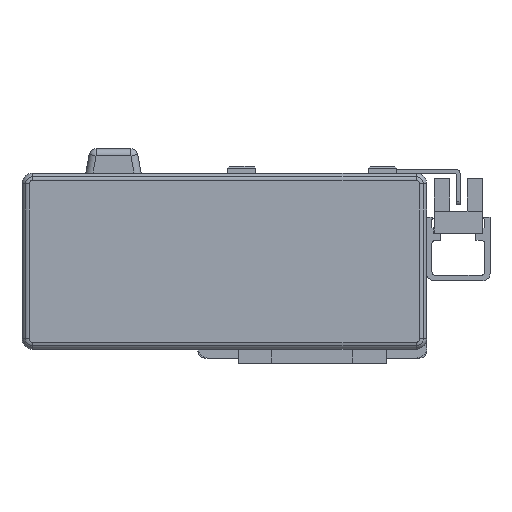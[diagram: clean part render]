
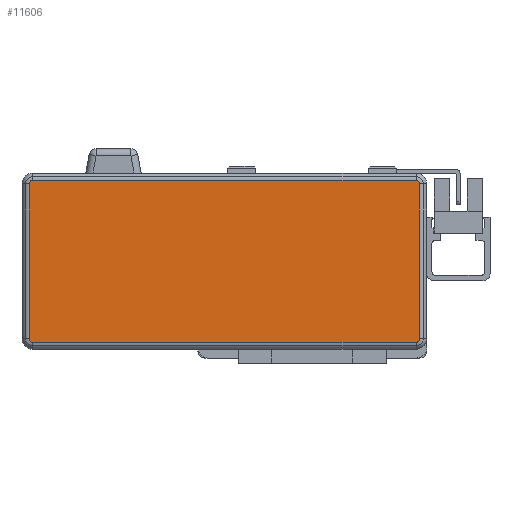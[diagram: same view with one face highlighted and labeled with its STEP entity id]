
A CAD part, left-side view. The second image highlights one B-rep face of the part: STEP entity #11606.
In plain terms, the highlighted planar face has unit normal (-1, 0, 0) as drawn and (0, 0, 1) by its records, which use the part's own axes.
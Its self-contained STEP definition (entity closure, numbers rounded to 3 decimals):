
#807 = CARTESIAN_POINT ( 'NONE',  ( 55.5, -22., 40. ) ) ;
#1894 = ORIENTED_EDGE ( 'NONE', *, *, #25583, .T. ) ;
#1999 = CARTESIAN_POINT ( 'NONE',  ( 0., 23., 40. ) ) ;
#2212 = DIRECTION ( 'NONE',  ( 0., -1., 0. ) ) ;
#5002 = CARTESIAN_POINT ( 'NONE',  ( -55.5, 22., 40. ) ) ;
#6322 = CARTESIAN_POINT ( 'NONE',  ( 54.5, 23., 40. ) ) ;
#6672 = DIRECTION ( 'NONE',  ( 0., 1., 0. ) ) ;
#6716 = FACE_OUTER_BOUND ( 'NONE', #20913, .T. ) ;
#6749 = DIRECTION ( 'NONE',  ( -1., 0., 0. ) ) ;
#7407 = AXIS2_PLACEMENT_3D ( 'NONE', #9083, #20179, #6749 ) ;
#8532 = CARTESIAN_POINT ( 'NONE',  ( 54.5, -23., 40. ) ) ;
#8604 = CARTESIAN_POINT ( 'NONE',  ( 54.5, -22., 40. ) ) ;
#9083 = CARTESIAN_POINT ( 'NONE',  ( 0., 0., 40. ) ) ;
#10792 = ORIENTED_EDGE ( 'NONE', *, *, #25586, .T. ) ;
#10893 = CARTESIAN_POINT ( 'NONE',  ( 0., -23., 40. ) ) ;
#11010 = DIRECTION ( 'NONE',  ( -1., 0., 0. ) ) ;
#11324 = CIRCLE ( 'NONE', #13431, 1. ) ;
#11514 = ORIENTED_EDGE ( 'NONE', *, *, #25727, .T. ) ;
#11606 = ADVANCED_FACE ( 'NONE', ( #6716 ), #18244, .F. ) ;
#11706 = VECTOR ( 'NONE', #2212, 1000. ) ;
#11963 = CARTESIAN_POINT ( 'NONE',  ( -54.5, 22., 40. ) ) ;
#12062 = CARTESIAN_POINT ( 'NONE',  ( -54.5, -22., 40. ) ) ;
#12102 = CIRCLE ( 'NONE', #13466, 1. ) ;
#12130 = LINE ( 'NONE', #24324, #11706 ) ;
#12911 = AXIS2_PLACEMENT_3D ( 'NONE', #8604, #23576, #11010 ) ;
#13183 = VECTOR ( 'NONE', #20290, 1000. ) ;
#13208 = LINE ( 'NONE', #1999, #13183 ) ;
#13431 = AXIS2_PLACEMENT_3D ( 'NONE', #12062, #26289, #14416 ) ;
#13466 = AXIS2_PLACEMENT_3D ( 'NONE', #11963, #26200, #14315 ) ;
#13505 = AXIS2_PLACEMENT_3D ( 'NONE', #25948, #13994, #27918 ) ;
#13660 = CARTESIAN_POINT ( 'NONE',  ( -54.5, 23., 40. ) ) ;
#13889 = CIRCLE ( 'NONE', #13505, 1. ) ;
#13927 = VECTOR ( 'NONE', #6672, 1000. ) ;
#13994 = DIRECTION ( 'NONE',  ( 0., 0., 1. ) ) ;
#14315 = DIRECTION ( 'NONE',  ( -1., 0., 0. ) ) ;
#14416 = DIRECTION ( 'NONE',  ( -1., 0., 0. ) ) ;
#14620 = LINE ( 'NONE', #22107, #13927 ) ;
#15642 = DIRECTION ( 'NONE',  ( 1., 0., 0. ) ) ;
#17055 = VECTOR ( 'NONE', #15642, 1000. ) ;
#17366 = LINE ( 'NONE', #10893, #17055 ) ;
#17417 = CIRCLE ( 'NONE', #12911, 1. ) ;
#18244 = PLANE ( 'NONE',  #7407 ) ;
#20179 = DIRECTION ( 'NONE',  ( 0., 0., -1. ) ) ;
#20290 = DIRECTION ( 'NONE',  ( -1., 0., 0. ) ) ;
#20913 = EDGE_LOOP ( 'NONE', ( #1894, #10792, #26329, #26236, #11514, #23560, #22022, #28218 ) ) ;
#20996 = VERTEX_POINT ( 'NONE', #807 ) ;
#22022 = ORIENTED_EDGE ( 'NONE', *, *, #25779, .T. ) ;
#22107 = CARTESIAN_POINT ( 'NONE',  ( 55.5, 0., 40. ) ) ;
#22221 = VERTEX_POINT ( 'NONE', #6322 ) ;
#23560 = ORIENTED_EDGE ( 'NONE', *, *, #25773, .T. ) ;
#23576 = DIRECTION ( 'NONE',  ( 0., 0., 1. ) ) ;
#23849 = VERTEX_POINT ( 'NONE', #13660 ) ;
#24324 = CARTESIAN_POINT ( 'NONE',  ( -55.5, 0., 40. ) ) ;
#24737 = VERTEX_POINT ( 'NONE', #5002 ) ;
#25583 = EDGE_CURVE ( 'NONE', #27586, #26730, #17366, .T. ) ;
#25586 = EDGE_CURVE ( 'NONE', #26730, #20996, #17417, .T. ) ;
#25701 = EDGE_CURVE ( 'NONE', #20996, #26872, #14620, .T. ) ;
#25703 = EDGE_CURVE ( 'NONE', #26872, #22221, #13889, .T. ) ;
#25721 = CARTESIAN_POINT ( 'NONE',  ( 55.5, 22., 40. ) ) ;
#25727 = EDGE_CURVE ( 'NONE', #22221, #23849, #13208, .T. ) ;
#25773 = EDGE_CURVE ( 'NONE', #23849, #24737, #12102, .T. ) ;
#25779 = EDGE_CURVE ( 'NONE', #24737, #27989, #12130, .T. ) ;
#25803 = EDGE_CURVE ( 'NONE', #27989, #27586, #11324, .T. ) ;
#25948 = CARTESIAN_POINT ( 'NONE',  ( 54.5, 22., 40. ) ) ;
#26200 = DIRECTION ( 'NONE',  ( 0., 0., 1. ) ) ;
#26236 = ORIENTED_EDGE ( 'NONE', *, *, #25703, .T. ) ;
#26289 = DIRECTION ( 'NONE',  ( 0., 0., 1. ) ) ;
#26329 = ORIENTED_EDGE ( 'NONE', *, *, #25701, .T. ) ;
#26730 = VERTEX_POINT ( 'NONE', #8532 ) ;
#26872 = VERTEX_POINT ( 'NONE', #25721 ) ;
#27066 = CARTESIAN_POINT ( 'NONE',  ( -55.5, -22., 40. ) ) ;
#27586 = VERTEX_POINT ( 'NONE', #27838 ) ;
#27838 = CARTESIAN_POINT ( 'NONE',  ( -54.5, -23., 40. ) ) ;
#27918 = DIRECTION ( 'NONE',  ( -1., 0., 0. ) ) ;
#27989 = VERTEX_POINT ( 'NONE', #27066 ) ;
#28218 = ORIENTED_EDGE ( 'NONE', *, *, #25803, .T. ) ;
